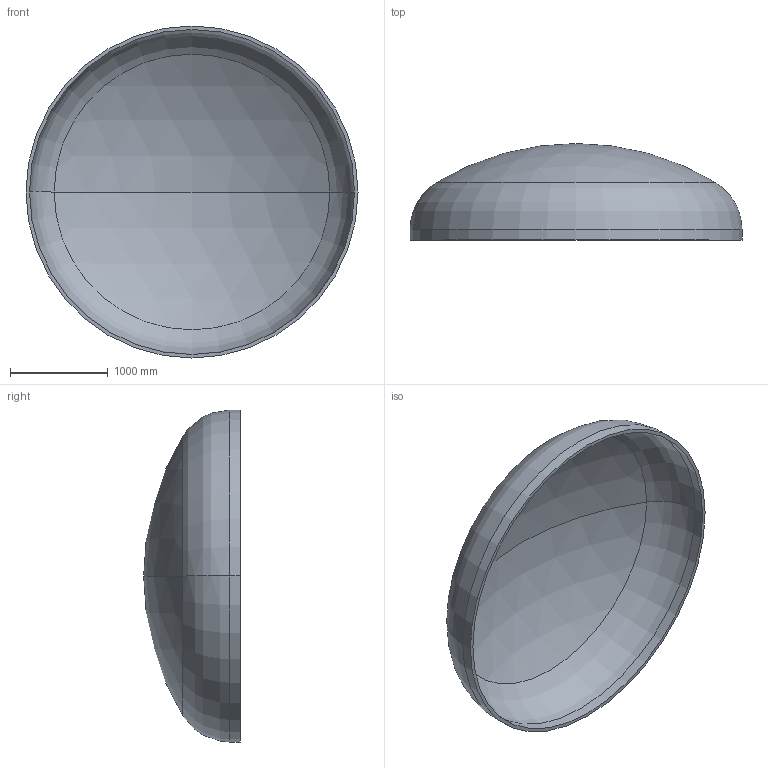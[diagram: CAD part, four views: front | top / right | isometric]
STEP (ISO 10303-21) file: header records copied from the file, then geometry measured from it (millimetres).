
FILE_DESCRIPTION (( 'STEP AP203' ), '1' );
FILE_NAME ('DIN 28013 Korbbogenform_-_Boden DIN 28013 - 3400 x 110 - I - s=36.step', '2016-07-01T19:26:32', ( '' ), ( '' ), 'SwSTEP 2.0', 'SolidWorks 2013', '' );
FILE_SCHEMA (( 'CONFIG_CONTROL_DESIGN' ));
Length unit declared in the file: millimetre
Products named in the file (1): DIN 28013 Korbbogenform_-_Boden DIN 28013 - 3400 x 110 - I - s=36
Bounding box: 3400 x 989.65 x 3400 mm (x, y, z)
Volume: 488474594 mm3; surface area: 27520641.3 mm2
Topology: 1 solids, 1 shells, 13 faces, 24 edges, 14 vertices
Faces by surface type: torus 4, cylinder 4, sphere 4, plane 1
Entity records: 407 total; most frequent: DIRECTION 72, CARTESIAN_POINT 52, ORIENTED_EDGE 48, AXIS2_PLACEMENT_3D 34, EDGE_CURVE 24, CIRCLE 20, EDGE_LOOP 14, VERTEX_POINT 14
